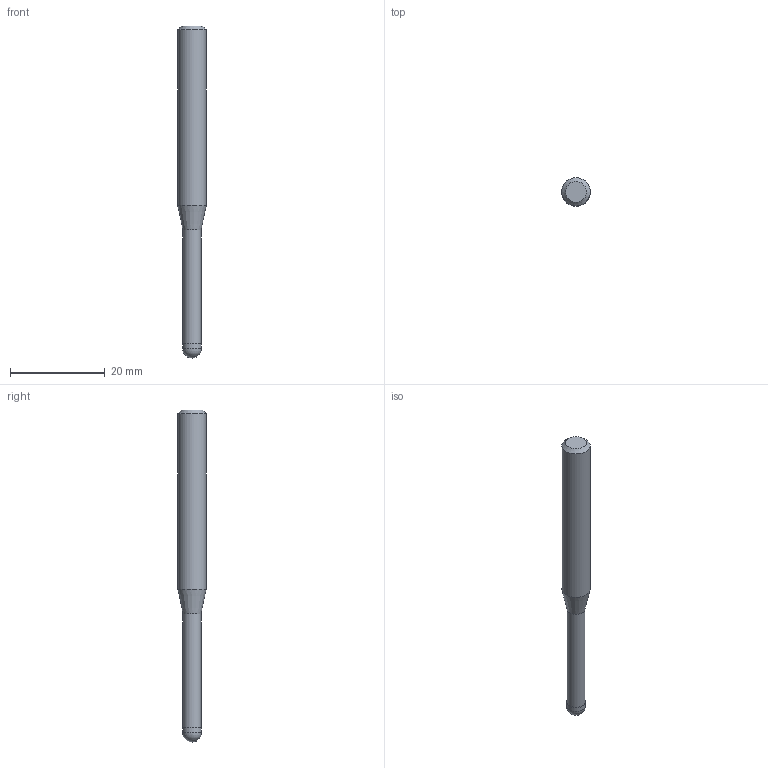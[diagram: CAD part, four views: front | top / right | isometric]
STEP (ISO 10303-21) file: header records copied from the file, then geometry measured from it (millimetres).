
FILE_DESCRIPTION((''),'2;1');
FILE_NAME('C:\Users\nsx150\AppData\Local\Temp\Mastercam 2021\ARV7HD45SN\TEMP.step','2023-06-13T16:39:16',(''),(''),'STEP Write','Mastercam 2021 ... CNC Software, Inc.','');
FILE_SCHEMA(('AUTOMOTIVE_DESIGN'));
Length unit declared in the file: millimetre
Products named in the file (1): None
Bounding box: 6 x 6 x 70 mm (x, y, z)
Volume: 1464.7 mm3; surface area: 1161.2 mm2
Topology: 2 solids, 2 shells, 9 faces, 14 edges, 8 vertices
Faces by surface type: plane 3, cylinder 3, cone 2, sphere 1
Full cylindrical faces by diameter (mm): 3.8 x1, 4 x1, 6 x1
Entity records: 211 total; most frequent: DIRECTION 36, CARTESIAN_POINT 25, AXIS2_PLACEMENT_3D 18, ORIENTED_EDGE 14, EDGE_LOOP 14, STYLED_ITEM 12, ADVANCED_FACE 9, FACE_BOUND 8
